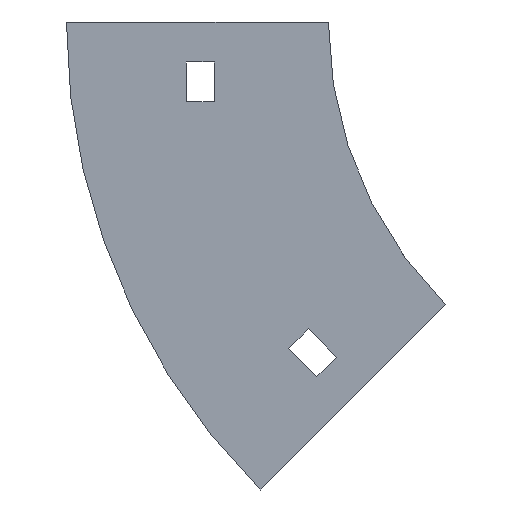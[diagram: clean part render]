
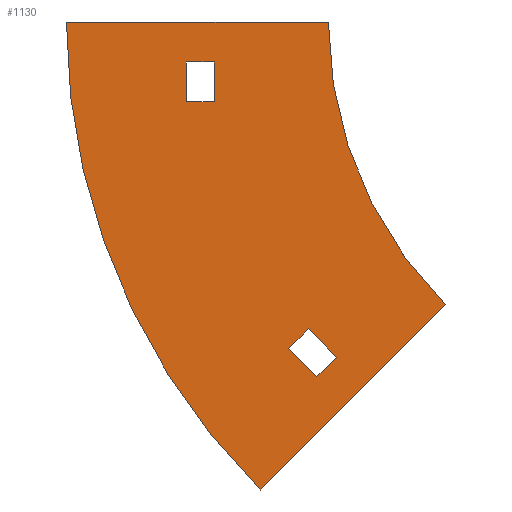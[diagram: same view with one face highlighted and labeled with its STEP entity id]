
A CAD part, left-side view. The second image highlights one B-rep face of the part: STEP entity #1130.
In plain terms, the highlighted planar face has unit normal (-1, 0, 0).
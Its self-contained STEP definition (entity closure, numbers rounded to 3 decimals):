
#6 = PLANE ( 'NONE',  #25 ) ;
#13 = ORIENTED_EDGE ( 'NONE', *, *, #689, .F. ) ;
#17 = LINE ( 'NONE', #897, #63 ) ;
#25 = AXIS2_PLACEMENT_3D ( 'NONE', #569, #1068, #464 ) ;
#29 = DIRECTION ( 'NONE',  ( 0., 0.707, 0.707 ) ) ;
#38 = ORIENTED_EDGE ( 'NONE', *, *, #315, .F. ) ;
#52 = EDGE_LOOP ( 'NONE', ( #38, #13, #571, #1012 ) ) ;
#63 = VECTOR ( 'NONE', #1058, 1000. ) ;
#65 = DIRECTION ( 'NONE',  ( 0., 1., 0. ) ) ;
#75 = CARTESIAN_POINT ( 'NONE',  ( -32.75, 28.5, -20. ) ) ;
#88 = EDGE_CURVE ( 'NONE', #746, #763, #657, .T. ) ;
#89 = EDGE_CURVE ( 'NONE', #791, #185, #481, .T. ) ;
#92 = CARTESIAN_POINT ( 'NONE',  ( -32.75, 65.5, 0. ) ) ;
#103 = ORIENTED_EDGE ( 'NONE', *, *, #961, .T. ) ;
#116 = DIRECTION ( 'NONE',  ( 0., 0.707, -0.707 ) ) ;
#156 = DIRECTION ( 'NONE',  ( 0., -1., 0. ) ) ;
#159 = ORIENTED_EDGE ( 'NONE', *, *, #88, .F. ) ;
#185 = VERTEX_POINT ( 'NONE', #664 ) ;
#187 = FACE_BOUND ( 'NONE', #872, .T. ) ;
#202 = ORIENTED_EDGE ( 'NONE', *, *, #990, .T. ) ;
#216 = VECTOR ( 'NONE', #969, 1000. ) ;
#225 = CARTESIAN_POINT ( 'NONE',  ( -32.75, -100., 0. ) ) ;
#245 = EDGE_CURVE ( 'NONE', #339, #1131, #1036, .T. ) ;
#257 = CARTESIAN_POINT ( 'NONE',  ( -32.75, 2.884, -88.742 ) ) ;
#285 = EDGE_CURVE ( 'NONE', #694, #746, #433, .T. ) ;
#304 = EDGE_CURVE ( 'NONE', #763, #866, #1037, .T. ) ;
#315 = EDGE_CURVE ( 'NONE', #505, #791, #674, .T. ) ;
#316 = VERTEX_POINT ( 'NONE', #485 ) ;
#318 = ORIENTED_EDGE ( 'NONE', *, *, #747, .T. ) ;
#324 = CARTESIAN_POINT ( 'NONE',  ( -32.75, 9.955, -81.671 ) ) ;
#339 = VERTEX_POINT ( 'NONE', #926 ) ;
#368 = EDGE_LOOP ( 'NONE', ( #726, #609, #449, #159 ) ) ;
#375 = DIRECTION ( 'NONE',  ( -1., 0., 0. ) ) ;
#382 = AXIS2_PLACEMENT_3D ( 'NONE', #1056, #375, #669 ) ;
#433 = LINE ( 'NONE', #1129, #458 ) ;
#445 = VECTOR ( 'NONE', #116, 1000. ) ;
#449 = ORIENTED_EDGE ( 'NONE', *, *, #304, .F. ) ;
#453 = EDGE_CURVE ( 'NONE', #185, #575, #1084, .T. ) ;
#456 = FACE_OUTER_BOUND ( 'NONE', #52, .T. ) ;
#458 = VECTOR ( 'NONE', #29, 1000. ) ;
#464 = DIRECTION ( 'NONE',  ( 0., 0., 1. ) ) ;
#481 = LINE ( 'NONE', #1112, #652 ) ;
#485 = CARTESIAN_POINT ( 'NONE',  ( -32.75, 35.5, -20. ) ) ;
#505 = VERTEX_POINT ( 'NONE', #813 ) ;
#506 = LINE ( 'NONE', #610, #525 ) ;
#525 = VECTOR ( 'NONE', #65, 1000. ) ;
#528 = EDGE_CURVE ( 'NONE', #866, #694, #17, .T. ) ;
#561 = CARTESIAN_POINT ( 'NONE',  ( -32.75, -2.066, -83.792 ) ) ;
#569 = CARTESIAN_POINT ( 'NONE',  ( -32.75, -100., 0. ) ) ;
#571 = ORIENTED_EDGE ( 'NONE', *, *, #453, .F. ) ;
#575 = VERTEX_POINT ( 'NONE', #92 ) ;
#596 = VECTOR ( 'NONE', #618, 1000. ) ;
#607 = DIRECTION ( 'NONE',  ( 0., 0., -1. ) ) ;
#609 = ORIENTED_EDGE ( 'NONE', *, *, #528, .F. ) ;
#610 = CARTESIAN_POINT ( 'NONE',  ( -32.75, 35.5, -20. ) ) ;
#618 = DIRECTION ( 'NONE',  ( 0., -0.707, -0.707 ) ) ;
#652 = VECTOR ( 'NONE', #1009, 1000. ) ;
#657 = LINE ( 'NONE', #919, #445 ) ;
#664 = CARTESIAN_POINT ( 'NONE',  ( -32.75, 17.026, -117.026 ) ) ;
#669 = DIRECTION ( 'NONE',  ( 0., 0., 1. ) ) ;
#674 = CIRCLE ( 'NONE', #382, 100. ) ;
#689 = EDGE_CURVE ( 'NONE', #575, #505, #1057, .T. ) ;
#694 = VERTEX_POINT ( 'NONE', #561 ) ;
#703 = LINE ( 'NONE', #1028, #773 ) ;
#721 = LINE ( 'NONE', #914, #923 ) ;
#726 = ORIENTED_EDGE ( 'NONE', *, *, #285, .F. ) ;
#746 = VERTEX_POINT ( 'NONE', #1015 ) ;
#747 = EDGE_CURVE ( 'NONE', #821, #316, #506, .T. ) ;
#753 = AXIS2_PLACEMENT_3D ( 'NONE', #225, #943, #840 ) ;
#763 = VERTEX_POINT ( 'NONE', #324 ) ;
#773 = VECTOR ( 'NONE', #607, 1000. ) ;
#791 = VERTEX_POINT ( 'NONE', #1034 ) ;
#813 = CARTESIAN_POINT ( 'NONE',  ( -32.75, 0., 0. ) ) ;
#821 = VERTEX_POINT ( 'NONE', #75 ) ;
#827 = CARTESIAN_POINT ( 'NONE',  ( -32.75, 28.5, -10. ) ) ;
#840 = DIRECTION ( 'NONE',  ( 0., 0., 1. ) ) ;
#866 = VERTEX_POINT ( 'NONE', #1071 ) ;
#872 = EDGE_LOOP ( 'NONE', ( #1095, #103, #318, #202 ) ) ;
#897 = CARTESIAN_POINT ( 'NONE',  ( -32.75, 2.884, -88.742 ) ) ;
#914 = CARTESIAN_POINT ( 'NONE',  ( -32.75, 35.5, -10. ) ) ;
#919 = CARTESIAN_POINT ( 'NONE',  ( -32.75, 9.955, -81.671 ) ) ;
#923 = VECTOR ( 'NONE', #1144, 1000. ) ;
#926 = CARTESIAN_POINT ( 'NONE',  ( -32.75, 35.5, -10. ) ) ;
#943 = DIRECTION ( 'NONE',  ( 1., 0., 0. ) ) ;
#952 = CARTESIAN_POINT ( 'NONE',  ( -32.75, 35.5, -10. ) ) ;
#961 = EDGE_CURVE ( 'NONE', #1131, #821, #703, .T. ) ;
#969 = DIRECTION ( 'NONE',  ( 0., -1., 0. ) ) ;
#979 = FACE_BOUND ( 'NONE', #368, .T. ) ;
#981 = CARTESIAN_POINT ( 'NONE',  ( -32.75, 65.5, 0. ) ) ;
#985 = VECTOR ( 'NONE', #156, 1000. ) ;
#990 = EDGE_CURVE ( 'NONE', #316, #339, #721, .T. ) ;
#1009 = DIRECTION ( 'NONE',  ( 0., 0.707, -0.707 ) ) ;
#1012 = ORIENTED_EDGE ( 'NONE', *, *, #89, .F. ) ;
#1015 = CARTESIAN_POINT ( 'NONE',  ( -32.75, 5.005, -76.721 ) ) ;
#1028 = CARTESIAN_POINT ( 'NONE',  ( -32.75, 28.5, -10. ) ) ;
#1034 = CARTESIAN_POINT ( 'NONE',  ( -32.75, -29.289, -70.711 ) ) ;
#1036 = LINE ( 'NONE', #952, #985 ) ;
#1037 = LINE ( 'NONE', #257, #596 ) ;
#1056 = CARTESIAN_POINT ( 'NONE',  ( -32.75, -100., 0. ) ) ;
#1057 = LINE ( 'NONE', #981, #216 ) ;
#1058 = DIRECTION ( 'NONE',  ( 0., -0.707, 0.707 ) ) ;
#1068 = DIRECTION ( 'NONE',  ( -1., 0., 0. ) ) ;
#1071 = CARTESIAN_POINT ( 'NONE',  ( -32.75, 2.884, -88.742 ) ) ;
#1084 = CIRCLE ( 'NONE', #753, 165.5 ) ;
#1095 = ORIENTED_EDGE ( 'NONE', *, *, #245, .T. ) ;
#1112 = CARTESIAN_POINT ( 'NONE',  ( -32.75, -29.289, -70.711 ) ) ;
#1129 = CARTESIAN_POINT ( 'NONE',  ( -32.75, -2.066, -83.792 ) ) ;
#1130 = ADVANCED_FACE ( 'NONE', ( #187, #456, #979 ), #6, .T. ) ;
#1131 = VERTEX_POINT ( 'NONE', #827 ) ;
#1144 = DIRECTION ( 'NONE',  ( 0., 0., 1. ) ) ;
